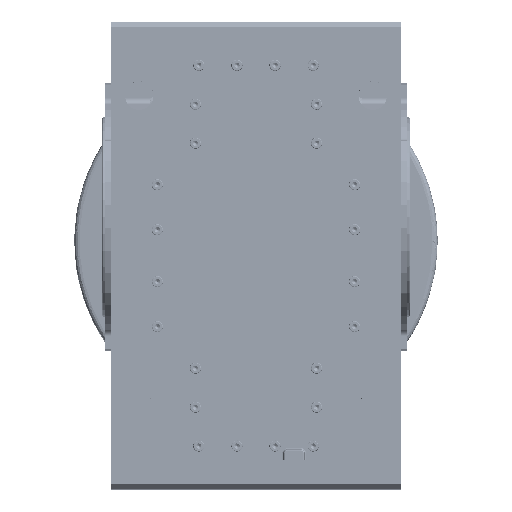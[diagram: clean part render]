
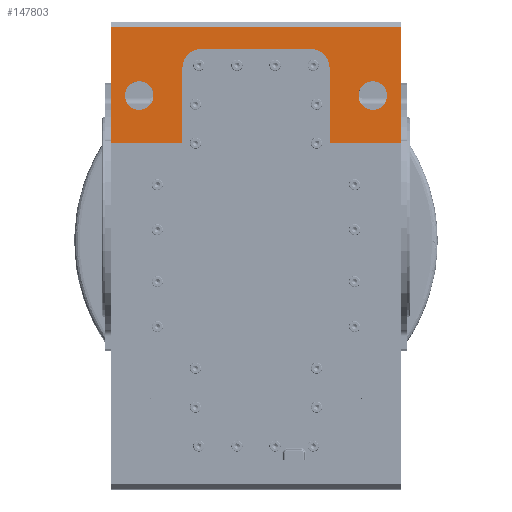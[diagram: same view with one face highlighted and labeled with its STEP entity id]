
A CAD part, top view. The second image highlights one B-rep face of the part: STEP entity #147803.
In plain terms, the highlighted planar face has unit normal (0, 0, 1).
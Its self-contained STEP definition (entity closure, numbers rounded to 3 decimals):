
#157 = FACE_BOUND ( 'NONE', #5374, .T. ) ;
#204 = FACE_BOUND ( 'NONE', #6822, .T. ) ;
#218 = FACE_OUTER_BOUND ( 'NONE', #5395, .T. ) ;
#497 = PLANE ( 'NONE',  #33557 ) ;
#520 = DIRECTION ( 'NONE',  ( 0., 0., 1. ) ) ;
#532 = DIRECTION ( 'NONE',  ( 0., -1., 0. ) ) ;
#559 = CARTESIAN_POINT ( 'NONE',  ( -167.5, 225., 200. ) ) ;
#4565 = VERTEX_POINT ( 'NONE', #67848 ) ;
#4702 = VERTEX_POINT ( 'NONE', #62008 ) ;
#4705 = VERTEX_POINT ( 'NONE', #62033 ) ;
#4707 = VERTEX_POINT ( 'NONE', #62039 ) ;
#5374 = EDGE_LOOP ( 'NONE', ( #62754, #62741 ) ) ;
#5395 = EDGE_LOOP ( 'NONE', ( #60957, #61161, #62731, #62749, #60972, #62757, #62764, #60955, #61055, #60985 ) ) ;
#6822 = EDGE_LOOP ( 'NONE', ( #60947, #62737 ) ) ;
#14171 = EDGE_CURVE ( 'NONE', #4705, #4565, #80388, .T. ) ;
#14194 = EDGE_CURVE ( 'NONE', #4702, #4707, #80426, .T. ) ;
#33557 = AXIS2_PLACEMENT_3D ( 'NONE', #559, #520, #532 ) ;
#34203 = DIRECTION ( 'NONE',  ( 0., -1., 0. ) ) ;
#34219 = DIRECTION ( 'NONE',  ( 0., 0., -1. ) ) ;
#34255 = CARTESIAN_POINT ( 'NONE',  ( 135., 140., 200. ) ) ;
#34674 = DIRECTION ( 'NONE',  ( 0., -1., 0. ) ) ;
#34733 = CARTESIAN_POINT ( 'NONE',  ( 85., 225., 200. ) ) ;
#34962 = DIRECTION ( 'NONE',  ( 0., 0., -1. ) ) ;
#34973 = DIRECTION ( 'NONE',  ( 0., -1., 0. ) ) ;
#35016 = CARTESIAN_POINT ( 'NONE',  ( -85., 225., 200. ) ) ;
#35018 = DIRECTION ( 'NONE',  ( 0., 1., 0. ) ) ;
#35086 = CARTESIAN_POINT ( 'NONE',  ( -63., 172., 200. ) ) ;
#37964 = DIRECTION ( 'NONE',  ( 0., -1., 0. ) ) ;
#38088 = CARTESIAN_POINT ( 'NONE',  ( -135., 140., 200. ) ) ;
#38152 = DIRECTION ( 'NONE',  ( 0., 0., -1. ) ) ;
#38299 = CARTESIAN_POINT ( 'NONE',  ( 63., 172., 200. ) ) ;
#38313 = DIRECTION ( 'NONE',  ( 0., -1., 0. ) ) ;
#38415 = DIRECTION ( 'NONE',  ( 0., 0., -1. ) ) ;
#44861 = DIRECTION ( 'NONE',  ( 1., 0., 0. ) ) ;
#44981 = CARTESIAN_POINT ( 'NONE',  ( -167.5, 85., 200. ) ) ;
#47039 = DIRECTION ( 'NONE',  ( 1., 0., 0. ) ) ;
#47094 = CARTESIAN_POINT ( 'NONE',  ( -167.5, 194., 200. ) ) ;
#48181 = VECTOR ( 'NONE', #52035, 1000. ) ;
#48192 = LINE ( 'NONE', #52052, #48181 ) ;
#48205 = LINE ( 'NONE', #52155, #48208 ) ;
#48208 = VECTOR ( 'NONE', #52124, 1000. ) ;
#48235 = LINE ( 'NONE', #52241, #48247 ) ;
#48247 = VECTOR ( 'NONE', #52245, 1000. ) ;
#48369 = LINE ( 'NONE', #54209, #48385 ) ;
#48385 = VECTOR ( 'NONE', #54126, 1000. ) ;
#49081 = VECTOR ( 'NONE', #47039, 1000. ) ;
#49103 = LINE ( 'NONE', #47094, #49081 ) ;
#49187 = VECTOR ( 'NONE', #44861, 1000. ) ;
#49247 = LINE ( 'NONE', #44981, #49187 ) ;
#52035 = DIRECTION ( 'NONE',  ( 0., -1., 0. ) ) ;
#52052 = CARTESIAN_POINT ( 'NONE',  ( 167.5, 221., 200. ) ) ;
#52124 = DIRECTION ( 'NONE',  ( 1., 0., 0. ) ) ;
#52155 = CARTESIAN_POINT ( 'NONE',  ( 97.5, 85., 200. ) ) ;
#52241 = CARTESIAN_POINT ( 'NONE',  ( -167.5, 225., 200. ) ) ;
#52245 = DIRECTION ( 'NONE',  ( 0., -1., 0. ) ) ;
#54126 = DIRECTION ( 'NONE',  ( -1., 0., 0. ) ) ;
#54209 = CARTESIAN_POINT ( 'NONE',  ( -167.5, 219., 200. ) ) ;
#60947 = ORIENTED_EDGE ( 'NONE', *, *, #14171, .T. ) ;
#60955 = ORIENTED_EDGE ( 'NONE', *, *, #149012, .T. ) ;
#60957 = ORIENTED_EDGE ( 'NONE', *, *, #149536, .F. ) ;
#60972 = ORIENTED_EDGE ( 'NONE', *, *, #149063, .T. ) ;
#60985 = ORIENTED_EDGE ( 'NONE', *, *, #149582, .T. ) ;
#61055 = ORIENTED_EDGE ( 'NONE', *, *, #149046, .T. ) ;
#61161 = ORIENTED_EDGE ( 'NONE', *, *, #149735, .T. ) ;
#62008 = CARTESIAN_POINT ( 'NONE',  ( 135., 123.5, 200. ) ) ;
#62033 = CARTESIAN_POINT ( 'NONE',  ( -135., 123.5, 200. ) ) ;
#62039 = CARTESIAN_POINT ( 'NONE',  ( 135., 156.5, 200. ) ) ;
#62731 = ORIENTED_EDGE ( 'NONE', *, *, #149601, .T. ) ;
#62737 = ORIENTED_EDGE ( 'NONE', *, *, #148996, .T. ) ;
#62741 = ORIENTED_EDGE ( 'NONE', *, *, #149029, .T. ) ;
#62749 = ORIENTED_EDGE ( 'NONE', *, *, #149186, .T. ) ;
#62754 = ORIENTED_EDGE ( 'NONE', *, *, #14194, .T. ) ;
#62757 = ORIENTED_EDGE ( 'NONE', *, *, #149062, .T. ) ;
#62764 = ORIENTED_EDGE ( 'NONE', *, *, #149113, .T. ) ;
#67848 = CARTESIAN_POINT ( 'NONE',  ( -135., 156.5, 200. ) ) ;
#80388 = CIRCLE ( 'NONE', #89185, 16.5 ) ;
#80426 = CIRCLE ( 'NONE', #89233, 16.5 ) ;
#86341 = CARTESIAN_POINT ( 'NONE',  ( -135., 140., 200. ) ) ;
#86362 = DIRECTION ( 'NONE',  ( 0., 0., -1. ) ) ;
#86430 = DIRECTION ( 'NONE',  ( 0., -1., 0. ) ) ;
#86442 = DIRECTION ( 'NONE',  ( 0., 0., -1. ) ) ;
#86446 = DIRECTION ( 'NONE',  ( 0., -1., 0. ) ) ;
#86614 = CARTESIAN_POINT ( 'NONE',  ( 135., 140., 200. ) ) ;
#89185 = AXIS2_PLACEMENT_3D ( 'NONE', #86341, #86362, #86430 ) ;
#89233 = AXIS2_PLACEMENT_3D ( 'NONE', #86614, #86442, #86446 ) ;
#99621 = VECTOR ( 'NONE', #34674, 1000. ) ;
#99683 = LINE ( 'NONE', #35016, #99711 ) ;
#99707 = CIRCLE ( 'NONE', #110836, 22. ) ;
#99711 = VECTOR ( 'NONE', #35018, 1000. ) ;
#99727 = LINE ( 'NONE', #34733, #99621 ) ;
#101339 = CIRCLE ( 'NONE', #110716, 16.5 ) ;
#101354 = CIRCLE ( 'NONE', #110806, 22. ) ;
#101367 = CIRCLE ( 'NONE', #110939, 16.5 ) ;
#110716 = AXIS2_PLACEMENT_3D ( 'NONE', #38088, #38152, #37964 ) ;
#110806 = AXIS2_PLACEMENT_3D ( 'NONE', #38299, #38415, #38313 ) ;
#110836 = AXIS2_PLACEMENT_3D ( 'NONE', #35086, #34962, #34973 ) ;
#110939 = AXIS2_PLACEMENT_3D ( 'NONE', #34255, #34219, #34203 ) ;
#147803 = ADVANCED_FACE ( 'NONE', ( #157, #204, #218 ), #497, .T. ) ;
#148996 = EDGE_CURVE ( 'NONE', #4565, #4705, #101339, .T. ) ;
#149012 = EDGE_CURVE ( 'NONE', #203393, #203372, #101354, .T. ) ;
#149029 = EDGE_CURVE ( 'NONE', #4707, #4702, #101367, .T. ) ;
#149046 = EDGE_CURVE ( 'NONE', #203372, #203501, #99727, .T. ) ;
#149062 = EDGE_CURVE ( 'NONE', #203369, #203399, #99707, .T. ) ;
#149063 = EDGE_CURVE ( 'NONE', #203409, #203369, #99683, .T. ) ;
#149113 = EDGE_CURVE ( 'NONE', #203399, #203393, #49103, .T. ) ;
#149186 = EDGE_CURVE ( 'NONE', #203633, #203409, #49247, .T. ) ;
#149536 = EDGE_CURVE ( 'NONE', #204044, #203969, #48192, .T. ) ;
#149582 = EDGE_CURVE ( 'NONE', #203501, #203969, #48205, .T. ) ;
#149601 = EDGE_CURVE ( 'NONE', #203952, #203633, #48235, .T. ) ;
#149735 = EDGE_CURVE ( 'NONE', #204044, #203952, #48369, .T. ) ;
#178382 = CARTESIAN_POINT ( 'NONE',  ( -85., 172., 200. ) ) ;
#178401 = CARTESIAN_POINT ( 'NONE',  ( 63., 194., 200. ) ) ;
#178406 = CARTESIAN_POINT ( 'NONE',  ( 85., 172., 200. ) ) ;
#178476 = CARTESIAN_POINT ( 'NONE',  ( -63., 194., 200. ) ) ;
#178528 = CARTESIAN_POINT ( 'NONE',  ( -85., 85., 200. ) ) ;
#178671 = CARTESIAN_POINT ( 'NONE',  ( 85., 85., 200. ) ) ;
#178742 = CARTESIAN_POINT ( 'NONE',  ( -167.5, 85., 200. ) ) ;
#179053 = CARTESIAN_POINT ( 'NONE',  ( 167.5, 85., 200. ) ) ;
#179106 = CARTESIAN_POINT ( 'NONE',  ( -167.5, 219., 200. ) ) ;
#179232 = CARTESIAN_POINT ( 'NONE',  ( 167.5, 219., 200. ) ) ;
#203369 = VERTEX_POINT ( 'NONE', #178382 ) ;
#203372 = VERTEX_POINT ( 'NONE', #178406 ) ;
#203393 = VERTEX_POINT ( 'NONE', #178401 ) ;
#203399 = VERTEX_POINT ( 'NONE', #178476 ) ;
#203409 = VERTEX_POINT ( 'NONE', #178528 ) ;
#203501 = VERTEX_POINT ( 'NONE', #178671 ) ;
#203633 = VERTEX_POINT ( 'NONE', #178742 ) ;
#203952 = VERTEX_POINT ( 'NONE', #179106 ) ;
#203969 = VERTEX_POINT ( 'NONE', #179053 ) ;
#204044 = VERTEX_POINT ( 'NONE', #179232 ) ;
